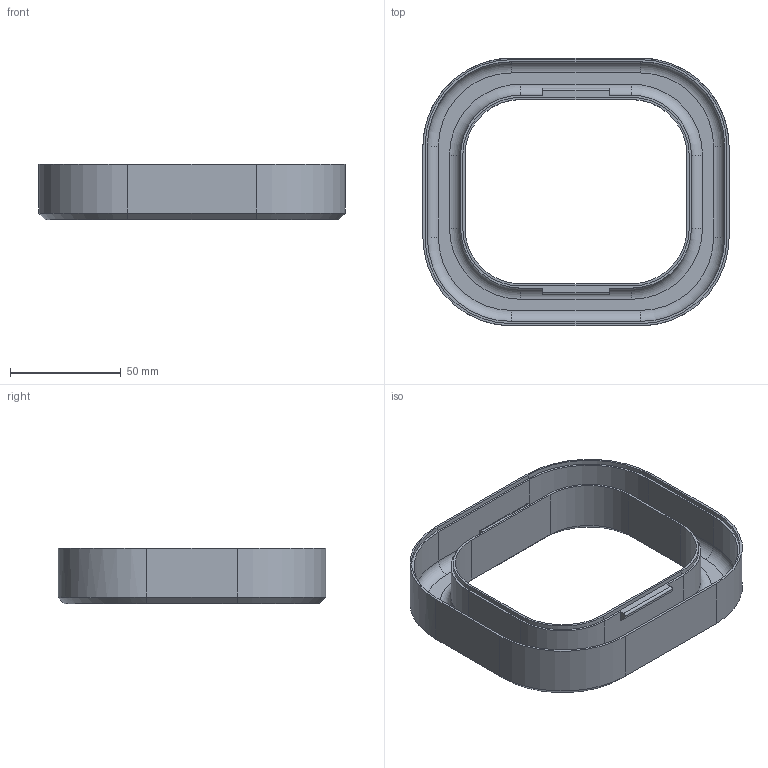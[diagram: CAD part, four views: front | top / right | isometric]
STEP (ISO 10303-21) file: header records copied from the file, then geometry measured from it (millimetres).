
FILE_DESCRIPTION(('HOOPS Exchange Step'),'2;1');
FILE_NAME('/Users/ridzwannormahazan/Library/Containers/com.shapr3d.shapr/Data/tmp/export/temp_export','2026-06-30T13:28:27+09:00',('ridzwannormahazan'),('Shapr3D Limited'),'HOOPS Exchange 2026.3','Shapr3D','Authorized');
FILE_SCHEMA( ('AP242_MANAGED_MODEL_BASED_3D_ENGINEERING_MIM_LF {1 0 10303 442 1 1 4}') );
Length unit declared in the file: millimetre
Products named in the file (2): MAS ver; root
Assembly tree (1 placements, depth 2):
  root
    MAS ver
Bounding box: 138 x 120.7 x 25 mm (x, y, z)
Volume: 49477.2 mm3; surface area: 49380.8 mm2
Topology: 1 solids, 1 shells, 96 faces, 240 edges, 150 vertices
Faces by surface type: plane 46, cylinder 34, torus 8, cone 8
Entity records: 3014 total; most frequent: CARTESIAN_POINT 595, DIRECTION 522, ORIENTED_EDGE 480, EDGE_CURVE 240, AXIS2_PLACEMENT_3D 184, VECTOR 154, LINE 154, VERTEX_POINT 150
